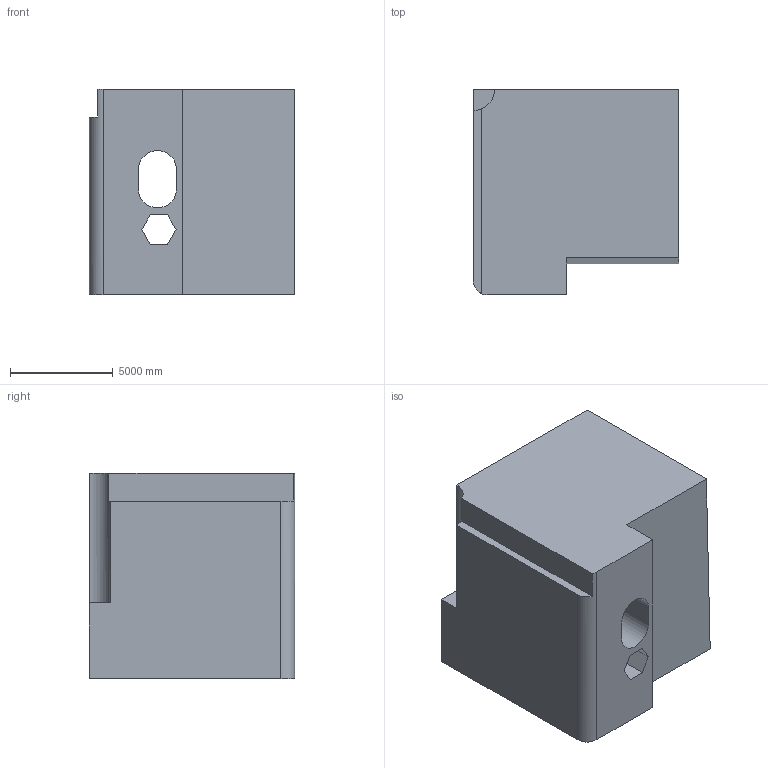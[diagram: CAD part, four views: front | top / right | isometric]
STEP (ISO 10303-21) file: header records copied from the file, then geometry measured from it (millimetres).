
FILE_DESCRIPTION (( 'STEP AP203' ), '1' );
FILE_NAME ('166.STEP', '2022-09-05T15:52:25', ( 'user' ), ( '' ), 'SwSTEP 2.0', 'SolidWorks 2021', '' );
FILE_SCHEMA (( 'CONFIG_CONTROL_DESIGN' ));
Length unit declared in the file: centimetre
Products named in the file (1): 166
Bounding box: 10000 x 10000 x 10000 mm (x, y, z)
Volume: 827895830627.3 mm3; surface area: 703928247.6 mm2
Topology: 1 solids, 1 shells, 28 faces, 81 edges, 54 vertices
Faces by surface type: plane 22, cylinder 6
Entity records: 1004 total; most frequent: CARTESIAN_POINT 164, ORIENTED_EDGE 162, DIRECTION 153, EDGE_CURVE 81, VECTOR 67, LINE 67, VERTEX_POINT 54, AXIS2_PLACEMENT_3D 43
